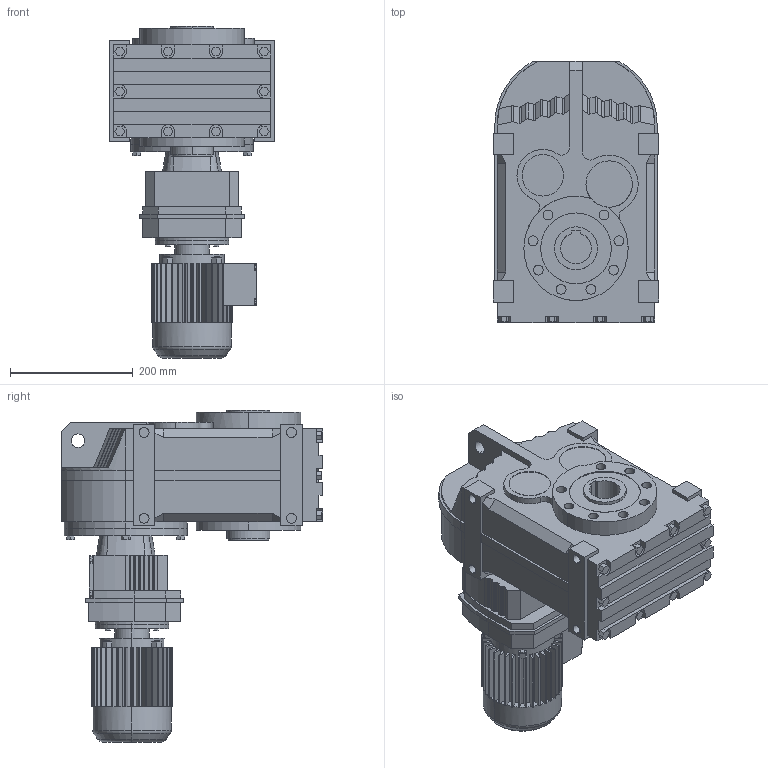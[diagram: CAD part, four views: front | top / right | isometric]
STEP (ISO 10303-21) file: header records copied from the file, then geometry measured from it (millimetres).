
FILE_DESCRIPTION(('Open CASCADE Model'),'2;1');
FILE_NAME('Open CASCADE Shape Model','2021-07-24T10:51:09',('Author'),( 'Open CASCADE'),'Open CASCADE STEP processor 6.3','Open CASCADE 6.3' ,'Unknown');
FILE_SCHEMA(('AUTOMOTIVE_DESIGN_CC2 { 1 2 10303 214 -1 1 5 4 }'));
Length unit declared in the file: millimetre
Products named in the file (5): 1_FA77R37DR63; FA27‵157_77.step; 萇儂_120-DR63-191-246-132-105.step; R_77_37.step; す瑩諾陑粣F_77.step
Assembly tree (4 placements, depth 2):
  1_FA77R37DR63
    FA27‵157_77.step
    萇儂_120-DR63-191-246-132-105.step
    R_77_37.step
    す瑩諾陑粣F_77.step
Bounding box: 270 x 426 x 541 mm (x, y, z)
Volume: 21156498.7 mm3; surface area: 997174.5 mm2
Topology: 4 solids, 4 shells, 1005 faces, 2661 edges, 1742 vertices
Faces by surface type: plane 752, cylinder 223, bspline 16, cone 10, torus 4
Entity records: 67213 total; most frequent: CARTESIAN_POINT 15591, DIRECTION 9132, LINE 5479, VECTOR 5479, ORIENTED_EDGE 5322, PCURVE 5322, DEFINITIONAL_REPRESENTATION 5322, EDGE_CURVE 2661
